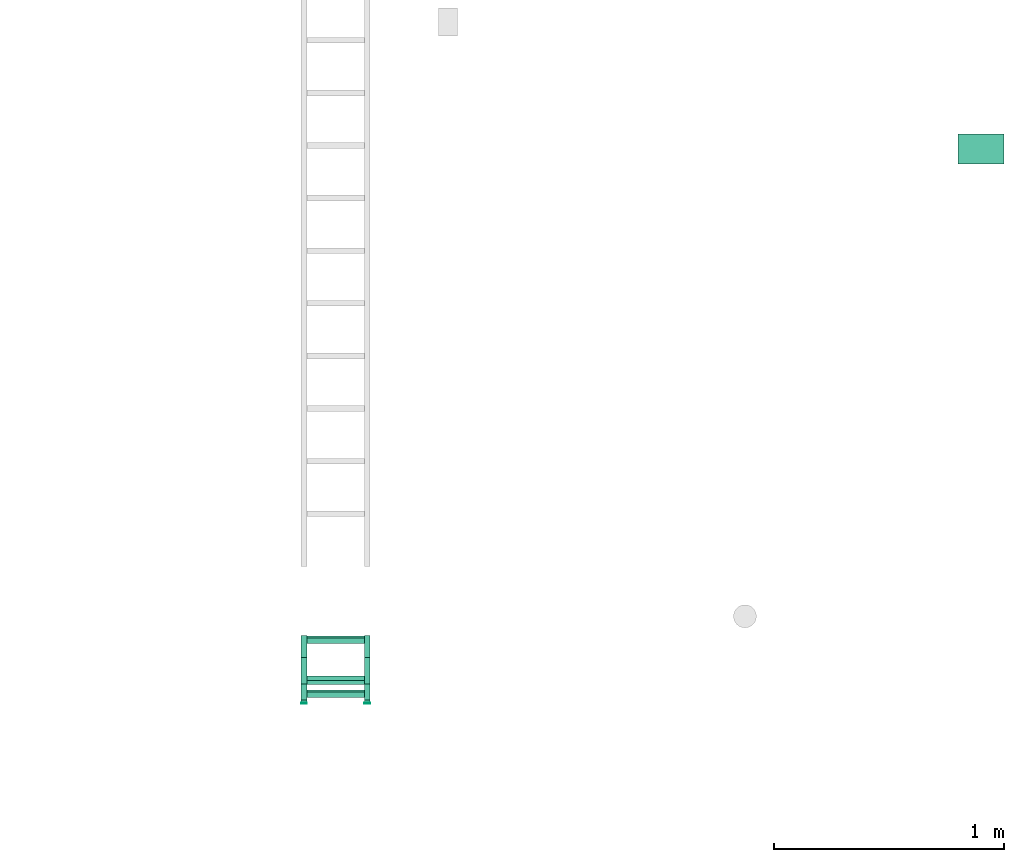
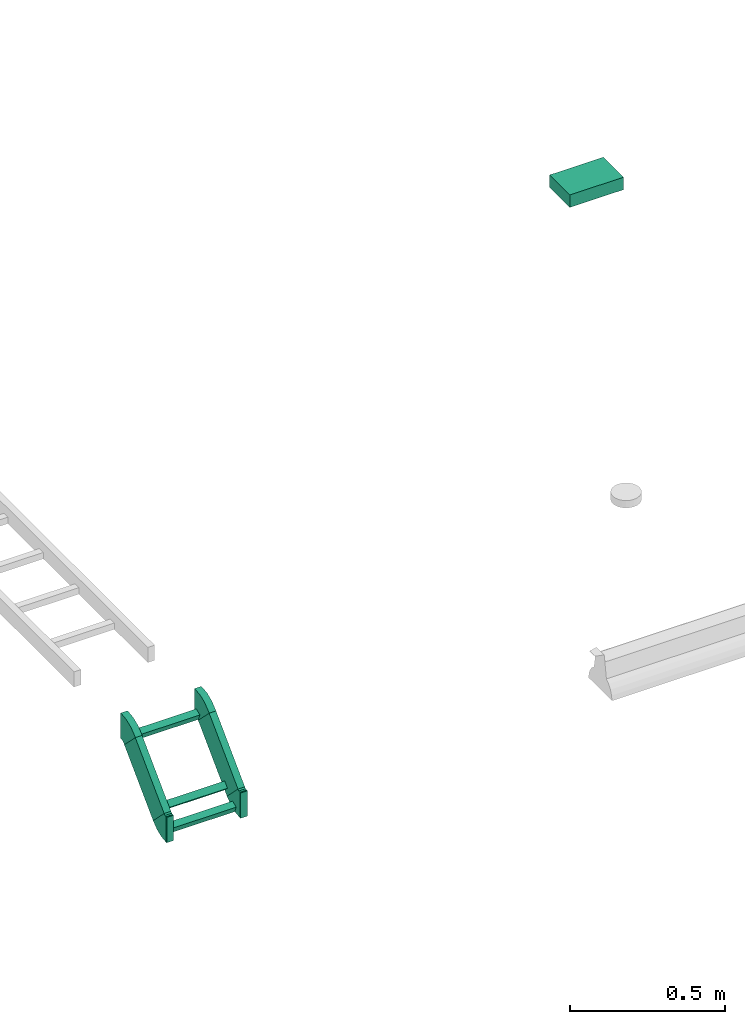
# One storey, part 14 of 14: 2 flow fittings, 2 flow segments, 1 flow terminal.
"""IFC2X3 building model written with IfcOpenShell, lengths in millimetres."""

import ifcopenshell
import ifcopenshell.guid

model = None  # the IFC model being written
_history = None  # IfcOwnerHistory: only IFC2X3 demands one
_inside = {}  # id of a spatial element -> (the spatial element, [elements in it])
_under = {}  # id of a project, library or spatial element -> (it, [spatial elements below it])
_declared = {}  # id of a project -> (the project, [libraries it declares])
_typed = {}  # id of a type object -> (the type object, [elements of that type])
_made_of = {}  # id of a material, layer set ... -> (it, [elements and type objects made of it])


def new_model(schema):
    """Start an empty IFC model of exactly this schema.

    Asked for "IFC4X3", IfcOpenShell would pick the latest addendum, in which some entities
    have other attributes; the version numbers below select the first issue.
    IFC2X3 requires an IfcOwnerHistory on every rooted entity: one is made here for all.
    """
    global model, _history
    if schema == "IFC4X3":
        model = ifcopenshell.file(schema_version=(4, 3, 0, 0))
    else:
        model = ifcopenshell.file(schema=schema)
    _inside.clear()
    _under.clear()
    _declared.clear()
    _typed.clear()
    _made_of.clear()
    _history = None
    if model.schema == "IFC2X3":
        org = make("IfcOrganization", Name="unknown")
        user = make(
            "IfcPersonAndOrganization",
            ThePerson=make("IfcPerson", FamilyName="unknown"),
            TheOrganization=org,
        )
        app = make(
            "IfcApplication",
            ApplicationDeveloper=org,
            Version="unknown",
            ApplicationFullName="unknown",
            ApplicationIdentifier="unknown",
        )
        _history = make(
            "IfcOwnerHistory",
            OwningUser=user,
            OwningApplication=app,
            ChangeAction="ADDED",
            CreationDate=0,
        )
    return model


def make(cls, **values):
    """One entity of the class cls with the attributes given. An attribute that is None is left unset."""
    return model.create_entity(
        cls, **{name: value for name, value in values.items() if value is not None}
    )


def entity(cls, *values):
    """Any entity or typed value of the class cls, its attributes in the order of the schema. None: left unset."""
    e = model.create_entity(cls)
    for i, value in enumerate(values):
        if value is not None:
            e[i] = value
    return e


def rooted(cls, **values):
    """An entity with a GlobalId (a new one), such as an element, a storey or a relation."""
    return make(cls, GlobalId=ifcopenshell.guid.new(), OwnerHistory=_history, **values)


def si_unit(unit_type, name, prefix=None):
    """IfcSIUnit, for example si_unit("LENGTHUNIT", "METRE", prefix="MILLI")."""
    return make("IfcSIUnit", UnitType=unit_type, Prefix=prefix, Name=name)


def converted_unit(unit_type, name, factor, base, dimensions=None, offset=None):
    """IfcConversionBasedUnit, such as the inch: factor (a typed value) times the base unit."""
    return make(
        "IfcConversionBasedUnit"
        if offset is None
        else "IfcConversionBasedUnitWithOffset",
        ConversionOffset=offset,
        Dimensions=None
        if dimensions is None
        else entity("IfcDimensionalExponents", *dimensions),
        UnitType=unit_type,
        Name=name,
        ConversionFactor=make(
            "IfcMeasureWithUnit", ValueComponent=factor, UnitComponent=base
        ),
    )


def derived_unit(unit_type, elements):
    """IfcDerivedUnit: a product of units, each with its exponent."""
    return make(
        "IfcDerivedUnit",
        Elements=[
            make("IfcDerivedUnitElement", Unit=unit, Exponent=power)
            for unit, power in elements
        ],
        UnitType=unit_type,
    )


def assignment(units):
    """IfcUnitAssignment: the units of a project."""
    return None if units is None else make("IfcUnitAssignment", Units=units)


def point(xyz):
    """IfcCartesianPoint."""
    return None if xyz is None else make("IfcCartesianPoint", Coordinates=xyz)


def direction(xyz):
    """IfcDirection."""
    return None if xyz is None else make("IfcDirection", DirectionRatios=xyz)


def frame(location, z_axis=None, x_axis=None):
    """IfcAxis2Placement3D, a coordinate frame: its origin and axes. An axis left out is left unset."""
    return make(
        "IfcAxis2Placement3D",
        Location=point(location),
        Axis=direction(z_axis),
        RefDirection=direction(x_axis),
    )


def origin_with_axes():
    """The frame at (0, 0, 0) with the z axis (0, 0, 1) and the x axis (1, 0, 0) written out."""
    return frame((0.0, 0.0, 0.0), z_axis=(0.0, 0.0, 1.0), x_axis=(1.0, 0.0, 0.0))


def place(relative_to, where):
    """IfcLocalPlacement: puts the frame where relative to a parent placement (None: the world)."""
    return make(
        "IfcLocalPlacement", PlacementRelTo=relative_to, RelativePlacement=where
    )


def context(
    kind, dimensions, precision=None, world=None, true_north=None, identifier=None
):
    """IfcGeometricRepresentationContext, for example the 3D "Model" context."""
    return make(
        "IfcGeometricRepresentationContext",
        ContextIdentifier=identifier,
        ContextType=kind,
        CoordinateSpaceDimension=dimensions,
        Precision=precision,
        WorldCoordinateSystem=world,
        TrueNorth=true_north,
    )


def subcontext(parent, identifier, kind, view, scale=None):
    """IfcGeometricRepresentationSubContext, for example "Body" below "Model"."""
    return make(
        "IfcGeometricRepresentationSubContext",
        ContextIdentifier=identifier,
        ContextType=kind,
        ParentContext=parent,
        TargetScale=scale,
        TargetView=view,
    )


def project(units=None, contexts=None):
    """IfcProject with its units and contexts."""
    return rooted(
        "IfcProject",
        Name="project",
        RepresentationContexts=contexts,
        UnitsInContext=assignment(units),
    )


def spatial(cls, under=None, at=None, **own):
    """A site, building, storey or space (cls), placed at a placement, below another one or the project."""
    s = rooted(cls, ObjectPlacement=at, **own)
    if under is not None:
        _under.setdefault(under.id(), (under, []))[1].append(s)
    return s


def faces_of(points, faces, orient=None, outer=None):
    """IfcFace entities. A face is a list of loops; a loop is a list of indices into points, from 0.

    orient and outer hold one flag for each loop. By default every Orientation is true, the
    first loop of a face is its IfcFaceOuterBound and the others are IfcFaceBound.
    """
    made = []
    for i, loops in enumerate(faces):
        bounds = []
        for j, loop in enumerate(loops):
            is_outer = j == 0 if outer is None else outer[i][j]
            bounds.append(
                make(
                    "IfcFaceOuterBound" if is_outer else "IfcFaceBound",
                    Bound=make("IfcPolyLoop", Polygon=[points[k] for k in loop]),
                    Orientation=True if orient is None else orient[i][j],
                )
            )
        made.append(make("IfcFace", Bounds=bounds))
    return made


def open_shell(faces, orient=None, outer=None):
    """The faces of one IfcOpenShell. surface_model builds it on its shared points."""
    return ("IfcOpenShell", faces, orient, outer)


def surface_model(cls, points, shells):
    """IfcFaceBasedSurfaceModel or IfcShellBasedSurfaceModel (cls): surfaces that need not close."""
    shared = [point(p) for p in points]
    made = [make(c, CfsFaces=faces_of(shared, fs, o, b)) for c, fs, o, b in shells]
    if cls == "IfcFaceBasedSurfaceModel":
        return make(cls, FbsmFaces=made)
    return make(cls, SbsmBoundary=made)


def shape(context_of_items, identifier, shape_type, items):
    """IfcShapeRepresentation: the items that make up one representation, for example the "Body"."""
    return make(
        "IfcShapeRepresentation",
        ContextOfItems=context_of_items,
        RepresentationIdentifier=identifier,
        RepresentationType=shape_type,
        Items=items,
    )


def source(mapping_origin, context_of_items, identifier, shape_type, items):
    """IfcRepresentationMap: a shape defined once, which mapped items show again and again."""
    return make(
        "IfcRepresentationMap",
        MappingOrigin=mapping_origin,
        MappedRepresentation=shape(context_of_items, identifier, shape_type, items),
    )


def transform(
    local_origin,
    x_axis=None,
    y_axis=None,
    z_axis=None,
    scale=None,
    scale2=None,
    scale3=None,
    uniform=True,
):
    """IfcCartesianTransformationOperator3D, or its non-uniform kind. x_axis, y_axis, z_axis: its Axis1, 2, 3."""
    if uniform:
        return make(
            "IfcCartesianTransformationOperator3D",
            Axis1=direction(x_axis),
            Axis2=direction(y_axis),
            LocalOrigin=point(local_origin),
            Scale=scale,
            Axis3=direction(z_axis),
        )
    return make(
        "IfcCartesianTransformationOperator3DnonUniform",
        Axis1=direction(x_axis),
        Axis2=direction(y_axis),
        LocalOrigin=point(local_origin),
        Scale=scale,
        Axis3=direction(z_axis),
        Scale2=scale2,
        Scale3=scale3,
    )


def mapped(mapping_source, mapping_target):
    """IfcMappedItem: shows the shape of a source again, moved by a transform."""
    return make(
        "IfcMappedItem", MappingSource=mapping_source, MappingTarget=mapping_target
    )


def made_of(thing, what):
    """Note that an element or type object is made of a material, layer set ...; save() writes the relation."""
    if what is not None:
        _made_of.setdefault(what.id(), (what, []))[1].append(thing)
    return thing


def type_object(cls, material=None, **own):
    """A type object (cls), such as IfcWallType, which elements share."""
    return made_of(rooted(cls, **own), material)


def element(
    cls,
    number,
    at=None,
    inside=None,
    cuts=None,
    type_object=None,
    material=None,
    context=None,
    identifier="Body",
    shape_type=None,
    held_by="IfcProductDefinitionShape",
    body=None,
    shapes=None,
    **own,
):
    """One element of the class cls, such as IfcWall. Its Tag is "e" and its number.

    at: its placement. inside: the storey or other place that contains it. cuts: it is an
    opening in that element (IfcRelVoidsElement). A single representation is given by context,
    identifier, shape_type and body (its items); several are given by shapes. held_by: the class
    of the entity that holds the representations. save() writes the other relations.
    """
    e = rooted(cls, Tag="e%d" % number, ObjectPlacement=at, **own)
    if body is not None:
        shapes = [shape(context, identifier, shape_type, body)]
    if shapes is not None:
        e.Representation = make(held_by, Representations=shapes)
    if inside is not None:
        _inside.setdefault(inside.id(), (inside, []))[1].append(e)
    if cuts is not None:
        rooted(
            "IfcRelVoidsElement", RelatingBuildingElement=cuts, RelatedOpeningElement=e
        )
    if type_object is not None:
        _typed.setdefault(type_object.id(), (type_object, []))[1].append(e)
    return made_of(e, material)


def aggregate(whole, parts):
    """IfcRelAggregates: a whole, such as a stair, and the parts it consists of."""
    return rooted("IfcRelAggregates", RelatingObject=whole, RelatedObjects=parts)


def save(model, path):
    """Write the relations noted so far, then the file.

    IfcRelAggregates (storeys below a building ...), IfcRelContainedInSpatialStructure (elements
    in a storey), IfcRelDefinesByType, IfcRelAssociatesMaterial and IfcRelDeclares: one each for
    every whole, place, type object, material and project.
    """
    for whole, parts in _under.values():
        aggregate(whole, parts)
    for where, things in _inside.values():
        rooted(
            "IfcRelContainedInSpatialStructure",
            RelatedElements=things,
            RelatingStructure=where,
        )
    for kind, things in _typed.values():
        rooted("IfcRelDefinesByType", RelatedObjects=things, RelatingType=kind)
    for what, things in _made_of.values():
        rooted("IfcRelAssociatesMaterial", RelatedObjects=things, RelatingMaterial=what)
    for by, libraries in _declared.values():
        rooted("IfcRelDeclares", RelatingContext=by, RelatedDefinitions=libraries)
    model.write(path)


model = new_model("IFC2X3")

# Units and contexts
model_context = context("Model", 3, precision=0.01, world=frame((0.0, 4.29681676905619e-09, 0.0)), true_north=direction((4.01073788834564e-13, 1.0)))
plan_context = context("Plan", 3, precision=0.01, world=frame((0.0, 4.29681676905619e-09, 0.0)), true_north=direction((4.01073788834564e-13, 1.0)))
body_context = subcontext(model_context, "Body", "Model", "MODEL_VIEW")
ifc_project = project(units=[converted_unit("PLANEANGLEUNIT", "DEGREE", entity("IfcPositiveLengthMeasure", 0.0174532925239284), si_unit("PLANEANGLEUNIT", "RADIAN"), dimensions=[0, 0, 0, 0, 0, 0, 0]), si_unit("AREAUNIT", "SQUARE_METRE"), si_unit("LENGTHUNIT", "METRE", prefix="MILLI"), si_unit("MASSUNIT", "GRAM", prefix="KILO"), si_unit("POWERUNIT", "WATT"), si_unit("PRESSUREUNIT", "PASCAL"), si_unit("FORCEUNIT", "NEWTON", prefix="KILO"), si_unit("ELECTRICVOLTAGEUNIT", "VOLT"), si_unit("ELECTRICCURRENTUNIT", "AMPERE"), si_unit("THERMODYNAMICTEMPERATUREUNIT", "DEGREE_CELSIUS"), si_unit("TIMEUNIT", "SECOND"), si_unit("VOLUMEUNIT", "CUBIC_METRE"), derived_unit("LINEARVELOCITYUNIT", [(si_unit("LENGTHUNIT", "METRE"), 1), (si_unit("TIMEUNIT", "SECOND"), -1)]), derived_unit("VOLUMETRICFLOWRATEUNIT", [(si_unit("VOLUMEUNIT", "CUBIC_METRE"), 1), (si_unit("TIMEUNIT", "SECOND"), -1)]), derived_unit("THERMALTRANSMITTANCEUNIT", [(si_unit("POWERUNIT", "WATT"), 1), (si_unit("THERMODYNAMICTEMPERATUREUNIT", "KELVIN"), -1), (si_unit("AREAUNIT", "SQUARE_METRE"), -1)]), derived_unit("SOUNDPRESSUREUNIT", [(si_unit("PRESSUREUNIT", "PASCAL"), 1)])], contexts=[model_context, plan_context])

# Site, building, storey
site_placement = place(None, frame((0.0, -4.29681676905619e-09, 0.0), z_axis=(0.0, 0.0, 1.0), x_axis=(1.0, 0.0, 0.0)))
site = spatial("IfcSite", under=ifc_project, at=site_placement, Name="ENGM", CompositionType="ELEMENT")
building_placement = place(site_placement, frame((0.0, 4.29681676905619e-09, 0.0), z_axis=(0.0, 0.0, 1.0), x_axis=(1.0, 0.0, 0.0)))
building = spatial("IfcBuilding", under=site, at=building_placement, Name="TH", CompositionType="ELEMENT")
storey_placement = place(building_placement, frame((0.0, 0.0, 205200.0), z_axis=(0.0, 0.0, 1.0), x_axis=(1.0, 0.0, 0.0)))
storey = spatial("IfcBuildingStorey", under=building, at=storey_placement, Name="Nivå D + 1,2 m", CompositionType="ELEMENT", Elevation=205200.0)

# Flow fittings
cable_carrier_fitting_type_1 = type_object("IfcCableCarrierFittingType", Name="Kabelbro, bend vertikal (Outside)", PredefinedType="BEND")
shared_shape_1 = source(origin_with_axes(), body_context, "Body", "SurfaceModel", [
    surface_model("IfcShellBasedSurfaceModel", [(0.42745, 32.15474, 124.6), (0.42745, 32.15474, -124.6), (-9.29271, 55.62128, -124.6), (-9.29271, 55.62128, 124.6), (-23.03909, 22.43458, 124.6), (-23.03909, 22.43458, -124.6), (-32.75925, 45.90113, -124.6), (-32.75925, 45.90113, 124.6), (-34.85281, 50.0, 150.0), (-34.85281, 50.0, 124.6), (-34.85281, -50.0, 124.6), (-34.85281, -50.0, 150.0), (-34.85281, 50.0, -124.6), (-34.85281, 50.0, -150.0), (-34.85281, -50.0, -150.0), (-34.85281, -50.0, -124.6), (-24.85281, 50.0, 124.6), (-24.85281, 50.0, 150.0), (-24.85281, -50.0, 124.6), (3.61728, -46.25184, 124.6), (-21.02598, 50.7612, 124.6), (52.92893, -17.78175, 124.6), (-17.78175, 52.92893, 124.6), (-10.71068, 60.0, 124.6), (60.0, -10.71068, 124.6), (30.14719, -35.26279, 124.6), (-24.85281, -50.0, 150.0), (3.61728, -46.25184, 150.0), (-21.02598, 50.7612, 150.0), (30.14719, -35.26279, 150.0), (-17.78175, 52.92893, 150.0), (52.92893, -17.78175, 150.0), (-10.71068, 60.0, 150.0), (60.0, -10.71068, 150.0), (-24.85281, 50.0, -150.0), (-24.85281, 50.0, -124.6), (-24.85281, -50.0, -150.0), (3.61728, -46.25184, -150.0), (-21.02598, 50.7612, -150.0), (52.92893, -17.78175, -150.0), (-17.78175, 52.92893, -150.0), (-10.71068, 60.0, -150.0), (60.0, -10.71068, -150.0), (30.14719, -35.26279, -150.0), (-24.85281, -50.0, -124.6), (3.61728, -46.25184, -124.6), (-21.02598, 50.7612, -124.6), (30.14719, -35.26279, -124.6), (-17.78175, 52.92893, -124.6), (52.92893, -17.78175, -124.6), (-10.71068, 60.0, -124.6), (60.0, -10.71068, -124.6)], [open_shell([[[0, 1, 2]], [[2, 3, 0]], [[1, 0, 4]], [[4, 5, 1]], [[2, 1, 6]], [[5, 6, 1]], [[3, 2, 6]], [[6, 7, 3]], [[0, 3, 7]], [[7, 4, 0]], [[6, 5, 7]], [[4, 7, 5]], [[8, 9, 10]], [[10, 11, 8]], [[12, 13, 14]], [[14, 15, 12]], [[9, 8, 16]], [[17, 16, 8]], [[9, 18, 10]], [[18, 9, 16]], [[19, 18, 16]], [[16, 20, 19]], [[21, 22, 23]], [[21, 23, 24]], [[25, 19, 20]], [[25, 22, 21]], [[25, 20, 22]], [[11, 10, 18]], [[18, 26, 11]], [[11, 26, 8]], [[17, 8, 26]], [[27, 28, 17]], [[17, 26, 27]], [[28, 29, 30]], [[30, 29, 31]], [[31, 32, 30]], [[32, 31, 33]], [[29, 28, 27]], [[13, 12, 34]], [[35, 34, 12]], [[13, 36, 14]], [[36, 13, 34]], [[37, 36, 34]], [[34, 38, 37]], [[39, 40, 41]], [[39, 41, 42]], [[43, 37, 38]], [[43, 40, 39]], [[43, 38, 40]], [[15, 14, 36]], [[36, 44, 15]], [[15, 44, 12]], [[35, 12, 44]], [[45, 46, 35]], [[35, 44, 45]], [[46, 47, 48]], [[48, 47, 49]], [[49, 50, 48]], [[50, 49, 51]], [[47, 46, 45]], [[28, 16, 17]], [[20, 16, 28]], [[30, 22, 20]], [[28, 30, 20]], [[18, 19, 27]], [[27, 26, 18]], [[19, 29, 27]], [[25, 21, 29]], [[31, 29, 21]], [[25, 29, 19]], [[35, 38, 34]], [[46, 38, 35]], [[48, 40, 46]], [[38, 46, 40]], [[36, 37, 44]], [[45, 44, 37]], [[37, 43, 45]], [[43, 39, 49]], [[49, 47, 43]], [[43, 47, 45]], [[24, 23, 32]], [[32, 33, 24]], [[42, 41, 50]], [[50, 51, 42]], [[22, 30, 32]], [[32, 23, 22]], [[31, 21, 24]], [[24, 33, 31]], [[40, 48, 50]], [[50, 41, 40]], [[49, 39, 42]], [[42, 51, 49]]])]),
])
flow_fitting_1_placement = place(storey_placement, frame((907474.6375, 478632.47616, 4345.29999999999), z_axis=(1.0, 0.0, 0.0), x_axis=(0.0, -1.0, 0.0)))
element("IfcFlowFitting", 1, at=flow_fitting_1_placement, inside=storey, type_object=cable_carrier_fitting_type_1, Name="Kabelbro, bend vertikal (Outside)", context=body_context, shape_type="MappedRepresentation", body=[
    mapped(shared_shape_1, transform((0.0, 0.0, 0.0), scale=1.0)),
])
cable_carrier_fitting_type_2 = type_object("IfcCableCarrierFittingType", Name="Kabelbro, bend vertikal (Inside)", PredefinedType="BEND")
shared_shape_2 = source(origin_with_axes(), body_context, "Body", "SurfaceModel", [
    surface_model("IfcShellBasedSurfaceModel", [(3.61728, -46.25184, 124.6), (-24.85281, -50.0, 124.6), (-24.85281, 50.0, 124.6), (-21.02598, 50.7612, 124.6), (30.14719, -35.26279, 124.6), (-17.78175, 52.92893, 124.6), (52.92893, -17.78175, 124.6), (3.61728, -46.25184, 150.0), (-21.02598, 50.7612, 150.0), (-24.85281, 50.0, 150.0), (-24.85281, -50.0, 150.0), (30.14719, -35.26279, 150.0), (-17.78175, 52.92893, 150.0), (52.92893, -17.78175, 150.0), (3.61728, -46.25184, -150.0), (-24.85281, -50.0, -150.0), (-24.85281, 50.0, -150.0), (-21.02598, 50.7612, -150.0), (30.14719, -35.26279, -150.0), (-17.78175, 52.92893, -150.0), (52.92893, -17.78175, -150.0), (3.61728, -46.25184, -124.6), (-21.02598, 50.7612, -124.6), (-24.85281, 50.0, -124.6), (-24.85281, -50.0, -124.6), (30.14719, -35.26279, -124.6), (-17.78175, 52.92893, -124.6), (52.92893, -17.78175, -124.6), (19.25547, -13.30013, 124.6), (28.97563, -36.76667, -124.6), (19.25547, -13.30013, -124.6), (28.97563, -36.76667, 124.6), (5.50909, -46.48683, 124.6), (5.50909, -46.48683, -124.6), (-4.21107, -23.02029, -124.6), (-4.21107, -23.02029, 124.6), (-27.85281, 50.0, 150.0), (-27.85281, 50.0, 124.6), (-27.85281, -50.0, 124.6), (-27.85281, -50.0, 150.0), (-27.85281, 50.0, -124.6), (-27.85281, 50.0, -150.0), (-27.85281, -50.0, -150.0), (-27.85281, -50.0, -124.6), (-15.66043, 55.05025, 124.6), (55.05025, -15.66043, 124.6), (-15.66043, 55.05025, 150.0), (55.05025, -15.66043, 150.0), (-15.66043, 55.05025, -150.0), (55.05025, -15.66043, -150.0), (-15.66043, 55.05025, -124.6), (55.05025, -15.66043, -124.6)], [open_shell([[[0, 1, 2]], [[2, 3, 0]], [[4, 0, 3]], [[4, 5, 6]], [[4, 3, 5]], [[7, 8, 9]], [[9, 10, 7]], [[8, 11, 12]], [[12, 11, 13]], [[11, 8, 7]], [[14, 15, 16]], [[16, 17, 14]], [[18, 14, 17]], [[18, 19, 20]], [[18, 17, 19]], [[21, 22, 23]], [[23, 24, 21]], [[22, 25, 26]], [[26, 25, 27]], [[25, 22, 21]], [[8, 2, 9]], [[3, 2, 8]], [[12, 5, 3]], [[8, 12, 3]], [[1, 0, 7]], [[7, 10, 1]], [[0, 11, 7]], [[4, 6, 11]], [[13, 11, 6]], [[4, 11, 0]], [[23, 17, 16]], [[22, 17, 23]], [[26, 19, 22]], [[17, 22, 19]], [[15, 14, 24]], [[21, 24, 14]], [[14, 18, 21]], [[18, 20, 27]], [[27, 25, 18]], [[18, 25, 21]], [[28, 29, 30]], [[29, 28, 31]], [[29, 31, 32]], [[32, 33, 29]], [[30, 29, 33]], [[33, 34, 30]], [[28, 30, 34]], [[34, 35, 28]], [[31, 28, 32]], [[35, 32, 28]], [[34, 33, 32]], [[32, 35, 34]], [[36, 37, 38]], [[38, 39, 36]], [[40, 41, 42]], [[42, 43, 40]], [[37, 36, 2]], [[9, 2, 36]], [[37, 1, 38]], [[1, 37, 2]], [[6, 5, 44]], [[6, 44, 45]], [[39, 38, 1]], [[1, 10, 39]], [[39, 10, 36]], [[9, 36, 10]], [[13, 46, 12]], [[46, 13, 47]], [[41, 40, 16]], [[23, 16, 40]], [[41, 15, 42]], [[15, 41, 16]], [[20, 19, 48]], [[20, 48, 49]], [[43, 42, 15]], [[15, 24, 43]], [[43, 24, 40]], [[23, 40, 24]], [[27, 50, 26]], [[50, 27, 51]], [[45, 44, 46]], [[46, 47, 45]], [[49, 48, 50]], [[50, 51, 49]], [[5, 12, 46]], [[46, 44, 5]], [[13, 6, 45]], [[45, 47, 13]], [[19, 26, 48]], [[50, 48, 26]], [[27, 20, 49]], [[49, 51, 27]]])]),
])
flow_fitting_2_placement = place(storey_placement, frame((907474.6375, 478402.47616, 4115.29999999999), z_axis=(-1.0, 0.0, 0.0), x_axis=(0.0, -0.707106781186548, -0.707106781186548)))
element("IfcFlowFitting", 2, at=flow_fitting_2_placement, inside=storey, type_object=cable_carrier_fitting_type_2, Name="Kabelbro, bend vertikal (Inside)", context=body_context, shape_type="MappedRepresentation", body=[
    mapped(shared_shape_2, transform((0.0, 0.0, 0.0), scale=1.0)),
])

# Flow segments
cable_carrier_segment_type = type_object("IfcCableCarrierSegmentType", Name="Kabelbro", PredefinedType="CABLELADDERSEGMENT")
shared_shape_3 = source(origin_with_axes(), body_context, "Body", "SurfaceModel", [
    surface_model("IfcShellBasedSurfaceModel", [(0.0, -124.6, 50.0), (0.0, -124.6, -50.0), (0.0, -150.0, -50.0), (0.0, -150.0, 50.0), (0.0, 150.0, 50.0), (0.0, 150.0, -50.0), (0.0, 124.6, -50.0), (0.0, 124.6, 50.0), (4.62335, -124.6, 50.0), (4.62335, -150.0, 50.0), (4.62335, -150.0, -50.0), (4.62335, -124.6, -50.0), (4.62335, 150.0, 50.0), (4.62335, 124.6, 50.0), (4.62335, 124.6, -50.0), (4.62335, 150.0, -50.0)], [open_shell([[[0, 1, 2]], [[2, 3, 0]], [[4, 5, 6]], [[6, 7, 4]], [[8, 9, 10]], [[10, 11, 8]], [[12, 13, 14]], [[14, 15, 12]], [[3, 2, 10]], [[10, 9, 3]], [[0, 3, 9]], [[9, 8, 0]], [[1, 0, 8]], [[8, 11, 1]], [[2, 1, 11]], [[11, 10, 2]], [[5, 4, 12]], [[12, 15, 5]], [[6, 5, 15]], [[15, 14, 6]], [[7, 6, 14]], [[14, 13, 7]], [[4, 7, 13]], [[13, 12, 4]]])]),
])
flow_segment_1_placement = place(storey_placement, frame((907474.6375, 478374.62335, 4115.29999999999), z_axis=(0.0, 0.0, 1.0), x_axis=(0.0, -1.0, 0.0)))
element("IfcFlowSegment", 3, at=flow_segment_1_placement, inside=storey, type_object=cable_carrier_segment_type, Name="Kabelbro", context=body_context, shape_type="MappedRepresentation", body=[
    mapped(shared_shape_3, transform((0.0, 0.0, 0.0), scale=1.0)),
])
shared_shape_4 = source(origin_with_axes(), body_context, "Body", "SurfaceModel", [
    surface_model("IfcShellBasedSurfaceModel", [(0.0, -124.6, -50.0), (0.0, -150.0, -50.0), (0.0, -150.0, 50.0), (0.0, -124.6, 50.0), (0.0, 150.0, -50.0), (0.0, 124.6, -50.0), (0.0, 124.6, 50.0), (0.0, 150.0, 50.0), (241.30001, -124.6, -24.6), (241.30001, -124.6, -50.0), (241.30001, 124.6, -50.0), (241.30001, 124.6, -24.6), (215.89999, -124.6, -50.0), (215.89999, -124.6, -24.6), (215.89999, 124.6, -24.6), (215.89999, 124.6, -50.0), (262.5635, -150.0, 50.0), (262.5635, -150.0, -50.0), (262.5635, -124.6, -50.0), (262.5635, -124.6, 50.0), (262.5635, 124.6, 50.0), (262.5635, 124.6, -50.0), (262.5635, 150.0, -50.0), (262.5635, 150.0, 50.0)], [open_shell([[[0, 1, 2]], [[2, 3, 0]], [[4, 5, 6]], [[6, 7, 4]], [[8, 9, 10]], [[10, 11, 8]], [[12, 13, 14]], [[14, 15, 12]], [[12, 9, 8]], [[8, 13, 12]], [[11, 10, 15]], [[15, 14, 11]], [[13, 8, 11]], [[11, 14, 13]], [[9, 12, 15]], [[15, 10, 9]], [[16, 17, 18]], [[18, 19, 16]], [[20, 21, 22]], [[22, 23, 20]], [[2, 1, 17]], [[17, 16, 2]], [[3, 2, 19]], [[16, 19, 2]], [[0, 3, 18]], [[19, 18, 3]], [[1, 0, 17]], [[18, 17, 0]], [[4, 7, 22]], [[23, 22, 7]], [[5, 4, 21]], [[22, 21, 4]], [[6, 5, 21]], [[21, 20, 6]], [[7, 6, 23]], [[20, 23, 6]]])]),
])
flow_segment_2_placement = place(storey_placement, frame((907474.6375, 478607.8315, 4320.65534), z_axis=(0.0, -0.707106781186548, 0.707106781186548), x_axis=(0.0, -0.707106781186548, -0.707106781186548)))
element("IfcFlowSegment", 4, at=flow_segment_2_placement, inside=storey, type_object=cable_carrier_segment_type, Name="Kabelbro", context=body_context, shape_type="MappedRepresentation", body=[
    mapped(shared_shape_4, transform((0.0, 0.0, 0.0), scale=1.0)),
])

# Flow terminal
light_fixture_type = type_object("IfcLightFixtureType", Name="IB7414 Zumtobel Resclite C Spot AD NDA IP65 WH", PredefinedType="NOTDEFINED")
shared_shape_5 = source(origin_with_axes(), body_context, "Body", "SurfaceModel", [
    surface_model("IfcShellBasedSurfaceModel", [(100.0, -65.0, 0.0), (100.0, 65.0, 0.0), (-100.0, -65.0, 0.0), (-100.0, 65.0, 0.0), (-100.0, -65.0, -49.0), (-100.0, 65.0, -49.0), (100.0, -65.0, -49.0), (100.0, 65.0, -49.0)], [open_shell([[[0, 1, 2]], [[3, 2, 1]], [[4, 5, 6]], [[7, 6, 5]], [[3, 1, 7]], [[7, 5, 3]], [[2, 3, 5]], [[5, 4, 2]], [[0, 2, 4]], [[4, 6, 0]], [[1, 0, 6]], [[6, 7, 1]]])]),
])
flow_terminal_placement = place(storey_placement, frame((910277.84901, 480780.91365, 4190.89254), z_axis=(0.0, 0.0, 1.0), x_axis=(-1.0, 0.0, 0.0)))
element("IfcFlowTerminal", 5, at=flow_terminal_placement, inside=storey, type_object=light_fixture_type, Name="IB7414 Zumtobel Resclite C Spot AD NDA IP65 WH", context=body_context, shape_type="MappedRepresentation", body=[
    mapped(shared_shape_5, transform((0.0, 0.0, 0.0), scale=1.0)),
])

save(model, "model.ifc")
